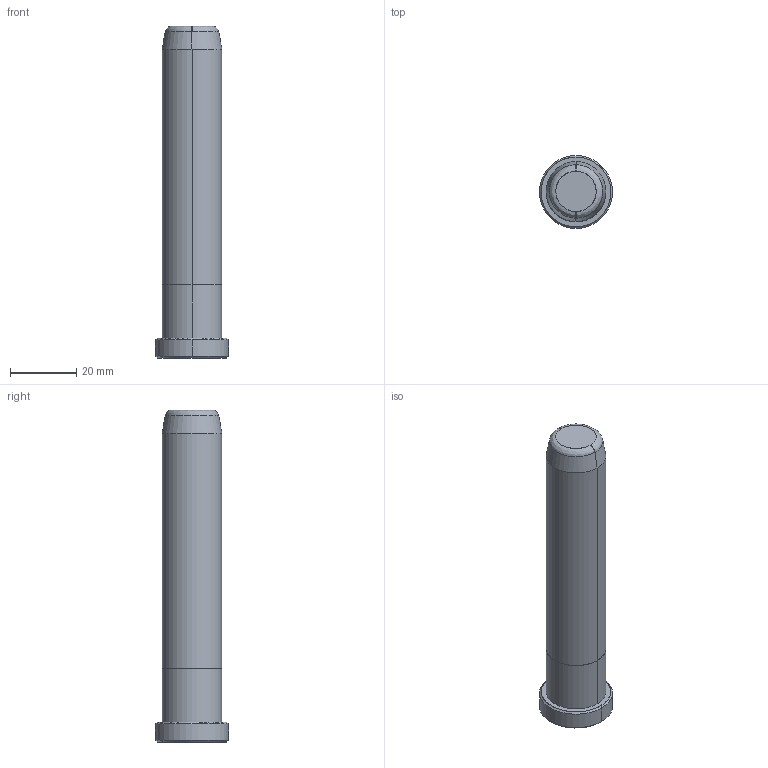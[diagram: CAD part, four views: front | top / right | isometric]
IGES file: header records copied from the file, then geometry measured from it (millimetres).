
Start section: START RECORD GO HERE.
Global section: file name: B82818100.igs; native system: DASSAULT SYSTEMES CATIA V5 R20 - www.3ds.com; preprocessor: CATIA Version 5 Release 20 ; author: Utente; organization: NB04-ASUS; date: 20200419.173742; units: millimetre
Bounding box: 22 x 22 x 100 mm (x, y, z)
Surface area: 6335.1 mm2 (no closed solid volume)
Topology: 0 solids, 0 shells, 20 faces, 80 edges, 80 vertices
Faces by surface type: revolution 16, plane 4
